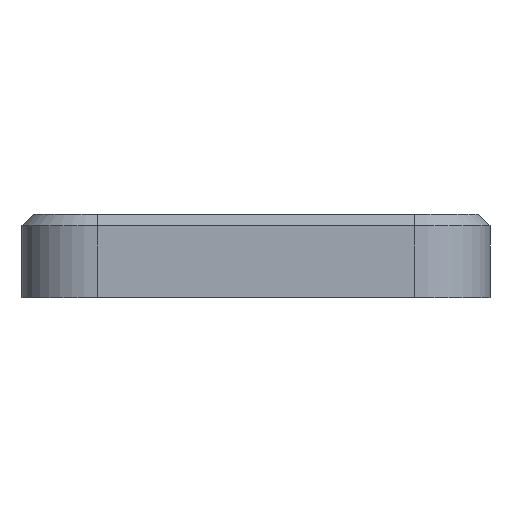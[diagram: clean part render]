
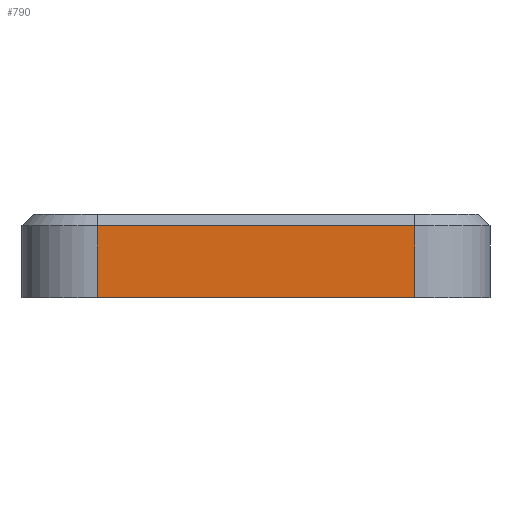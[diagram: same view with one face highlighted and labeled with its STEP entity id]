
A CAD part, left-side view. The second image highlights one B-rep face of the part: STEP entity #790.
In plain terms, the highlighted planar face has unit normal (-1, 0, 0).
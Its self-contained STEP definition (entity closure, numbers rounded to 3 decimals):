
#44 = CYLINDRICAL_SURFACE('',#45,20.);
#45 = AXIS2_PLACEMENT_3D('',#46,#47,#48);
#46 = CARTESIAN_POINT('',(-78.,-42.,0.));
#47 = DIRECTION('',(0.,0.,1.));
#48 = DIRECTION('',(0.,-1.,0.));
#126 = PLANE('',#127);
#127 = AXIS2_PLACEMENT_3D('',#128,#129,#130);
#128 = CARTESIAN_POINT('',(0.,0.,0.));
#129 = DIRECTION('',(0.,0.,1.));
#130 = DIRECTION('',(1.,0.,-0.));
#143 = VERTEX_POINT('',#144);
#144 = CARTESIAN_POINT('',(-98.,-42.,0.));
#170 = EDGE_CURVE('',#143,#171,#173,.T.);
#171 = VERTEX_POINT('',#172);
#172 = CARTESIAN_POINT('',(-98.,-42.,19.));
#173 = SURFACE_CURVE('',#174,(#178,#185),.PCURVE_S1.);
#174 = LINE('',#175,#176);
#175 = CARTESIAN_POINT('',(-98.,-42.,0.));
#176 = VECTOR('',#177,1.);
#177 = DIRECTION('',(0.,0.,1.));
#178 = PCURVE('',#44,#179);
#179 = DEFINITIONAL_REPRESENTATION('',(#180),#184);
#180 = LINE('',#181,#182);
#181 = CARTESIAN_POINT('',(-1.571,0.));
#182 = VECTOR('',#183,1.);
#183 = DIRECTION('',(-0.,1.));
#184 = ( GEOMETRIC_REPRESENTATION_CONTEXT(2) 
PARAMETRIC_REPRESENTATION_CONTEXT() REPRESENTATION_CONTEXT('2D SPACE',''
  ) );
#185 = PCURVE('',#186,#191);
#186 = PLANE('',#187);
#187 = AXIS2_PLACEMENT_3D('',#188,#189,#190);
#188 = CARTESIAN_POINT('',(-98.,62.,0.));
#189 = DIRECTION('',(1.,0.,-0.));
#190 = DIRECTION('',(0.,-1.,0.));
#191 = DEFINITIONAL_REPRESENTATION('',(#192),#196);
#192 = LINE('',#193,#194);
#193 = CARTESIAN_POINT('',(104.,0.));
#194 = VECTOR('',#195,1.);
#195 = DIRECTION('',(0.,-1.));
#196 = ( GEOMETRIC_REPRESENTATION_CONTEXT(2) 
PARAMETRIC_REPRESENTATION_CONTEXT() REPRESENTATION_CONTEXT('2D SPACE',''
  ) );
#416 = VERTEX_POINT('',#417);
#417 = CARTESIAN_POINT('',(-98.,42.,0.));
#432 = CYLINDRICAL_SURFACE('',#433,20.);
#433 = AXIS2_PLACEMENT_3D('',#434,#435,#436);
#434 = CARTESIAN_POINT('',(-78.,42.,0.));
#435 = DIRECTION('',(0.,0.,1.));
#436 = DIRECTION('',(-0.,1.,0.));
#444 = EDGE_CURVE('',#416,#143,#445,.T.);
#445 = SURFACE_CURVE('',#446,(#450,#457),.PCURVE_S1.);
#446 = LINE('',#447,#448);
#447 = CARTESIAN_POINT('',(-98.,62.,0.));
#448 = VECTOR('',#449,1.);
#449 = DIRECTION('',(0.,-1.,0.));
#450 = PCURVE('',#126,#451);
#451 = DEFINITIONAL_REPRESENTATION('',(#452),#456);
#452 = LINE('',#453,#454);
#453 = CARTESIAN_POINT('',(-98.,62.));
#454 = VECTOR('',#455,1.);
#455 = DIRECTION('',(0.,-1.));
#456 = ( GEOMETRIC_REPRESENTATION_CONTEXT(2) 
PARAMETRIC_REPRESENTATION_CONTEXT() REPRESENTATION_CONTEXT('2D SPACE',''
  ) );
#457 = PCURVE('',#186,#458);
#458 = DEFINITIONAL_REPRESENTATION('',(#459),#463);
#459 = LINE('',#460,#461);
#460 = CARTESIAN_POINT('',(0.,0.));
#461 = VECTOR('',#462,1.);
#462 = DIRECTION('',(1.,0.));
#463 = ( GEOMETRIC_REPRESENTATION_CONTEXT(2) 
PARAMETRIC_REPRESENTATION_CONTEXT() REPRESENTATION_CONTEXT('2D SPACE',''
  ) );
#756 = PLANE('',#757);
#757 = AXIS2_PLACEMENT_3D('',#758,#759,#760);
#758 = CARTESIAN_POINT('',(-96.5,42.,20.5));
#759 = DIRECTION('',(0.707,0.,-0.707));
#760 = DIRECTION('',(-0.,1.,-0.));
#790 = ADVANCED_FACE('',(#791),#186,.F.);
#791 = FACE_BOUND('',#792,.F.);
#792 = EDGE_LOOP('',(#793,#816,#837,#838));
#793 = ORIENTED_EDGE('',*,*,#794,.T.);
#794 = EDGE_CURVE('',#416,#795,#797,.T.);
#795 = VERTEX_POINT('',#796);
#796 = CARTESIAN_POINT('',(-98.,42.,19.));
#797 = SURFACE_CURVE('',#798,(#802,#809),.PCURVE_S1.);
#798 = LINE('',#799,#800);
#799 = CARTESIAN_POINT('',(-98.,42.,0.));
#800 = VECTOR('',#801,1.);
#801 = DIRECTION('',(0.,0.,1.));
#802 = PCURVE('',#186,#803);
#803 = DEFINITIONAL_REPRESENTATION('',(#804),#808);
#804 = LINE('',#805,#806);
#805 = CARTESIAN_POINT('',(20.,0.));
#806 = VECTOR('',#807,1.);
#807 = DIRECTION('',(0.,-1.));
#808 = ( GEOMETRIC_REPRESENTATION_CONTEXT(2) 
PARAMETRIC_REPRESENTATION_CONTEXT() REPRESENTATION_CONTEXT('2D SPACE',''
  ) );
#809 = PCURVE('',#432,#810);
#810 = DEFINITIONAL_REPRESENTATION('',(#811),#815);
#811 = LINE('',#812,#813);
#812 = CARTESIAN_POINT('',(1.571,0.));
#813 = VECTOR('',#814,1.);
#814 = DIRECTION('',(0.,1.));
#815 = ( GEOMETRIC_REPRESENTATION_CONTEXT(2) 
PARAMETRIC_REPRESENTATION_CONTEXT() REPRESENTATION_CONTEXT('2D SPACE',''
  ) );
#816 = ORIENTED_EDGE('',*,*,#817,.T.);
#817 = EDGE_CURVE('',#795,#171,#818,.T.);
#818 = SURFACE_CURVE('',#819,(#823,#830),.PCURVE_S1.);
#819 = LINE('',#820,#821);
#820 = CARTESIAN_POINT('',(-98.,42.,19.));
#821 = VECTOR('',#822,1.);
#822 = DIRECTION('',(0.,-1.,0.));
#823 = PCURVE('',#186,#824);
#824 = DEFINITIONAL_REPRESENTATION('',(#825),#829);
#825 = LINE('',#826,#827);
#826 = CARTESIAN_POINT('',(20.,-19.));
#827 = VECTOR('',#828,1.);
#828 = DIRECTION('',(1.,0.));
#829 = ( GEOMETRIC_REPRESENTATION_CONTEXT(2) 
PARAMETRIC_REPRESENTATION_CONTEXT() REPRESENTATION_CONTEXT('2D SPACE',''
  ) );
#830 = PCURVE('',#756,#831);
#831 = DEFINITIONAL_REPRESENTATION('',(#832),#836);
#832 = LINE('',#833,#834);
#833 = CARTESIAN_POINT('',(-0.,-2.121));
#834 = VECTOR('',#835,1.);
#835 = DIRECTION('',(-1.,0.));
#836 = ( GEOMETRIC_REPRESENTATION_CONTEXT(2) 
PARAMETRIC_REPRESENTATION_CONTEXT() REPRESENTATION_CONTEXT('2D SPACE',''
  ) );
#837 = ORIENTED_EDGE('',*,*,#170,.F.);
#838 = ORIENTED_EDGE('',*,*,#444,.F.);
